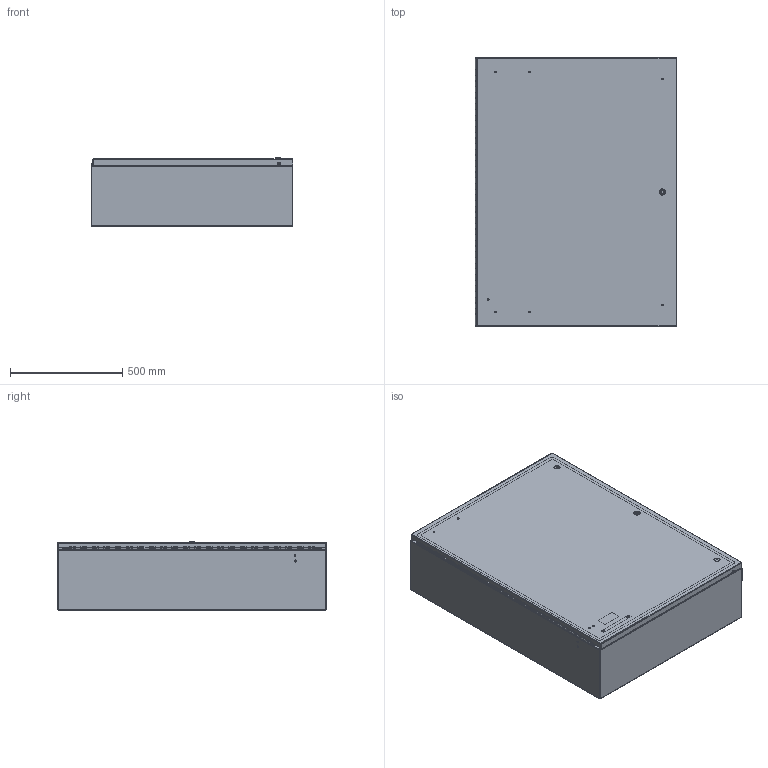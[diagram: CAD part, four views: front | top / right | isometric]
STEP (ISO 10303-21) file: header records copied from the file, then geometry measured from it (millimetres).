
FILE_DESCRIPTION (( 'STEP AP203' ), '1' );
FILE_NAME ('ecl1209030ch.STEP', '2013-09-10T15:50:36', ( 'User' ), ( 'Pentair Inc' ), 'SwSTEP 2.0', 'SolidWorks 2010', '' );
FILE_SCHEMA (( 'CONFIG_CONTROL_DESIGN' ));
Length unit declared in the file: inch
Products named in the file (40): ecl1209030ch; 89051901; 89052982; 87559712; 87554969; 89051851; 87554464; 89051852; 87554468; 87554978_PEM HFHS-M6-15 ---N; 87559861; 89051733; 89051710; 87559679; 87744876_87744876; 87554979_87554979; 99411940_99411940; 89051697; 64138001; 91120001_91120001; 87780048; 87554967_OPEN; 87960059_Default 14 ga; 87956873; 87956874; 31122001_31122001; 99407583; 87956867; 99405181; 87956872; 87956875; 99414303_99414303; 99411839_99411839; 27131001; 87554494; 89051755; 87793415_87793415; 87555333_87555333; 87933943_87933843; 87559870
Assembly tree (59 placements, depth 5):
  ecl1209030ch
    87559870
    89051901
      87554969  x8
      89051852
        87554468
        87554978_PEM HFHS-M6-15 ---N  x2
      87559861
      89052982
        99411940_99411940
        87559712
      89051851
        87554464
        87554978_PEM HFHS-M6-15 ---N  x2
    87555333_87555333
      87933943_87933843
    87793415_87793415
    89051733
      27131001  x2
      99411839_99411839  x2
      91120001_91120001  x2
      64138001  x2
      89051755  x2
      89051697
      87554494
      87780048
      89051710
        87554979_87554979  x4
        87744876_87744876  x2
        87559679
        99411940_99411940
      87554967_OPEN
        87960059_Default 14 ga
          87956873
          87956874
          31122001_31122001
        99407583
          87956867
          87956872
          87956875
          99405181
        99414303_99414303
Bounding box: 900.52 x 1204.06 x 304.23 mm (x, y, z)
Volume: 8430579.8 mm3; surface area: 7580110 mm2
Topology: 55 solids, 67 shells, 2967 faces, 7731 edges, 4968 vertices
Faces by surface type: plane 1470, cylinder 897, cone 327, torus 112, bspline 105, sphere 56
Entity records: 71981 total; most frequent: CARTESIAN_POINT 18600, DIRECTION 10190, ORIENTED_EDGE 10160, EDGE_CURVE 5084, AXIS2_PLACEMENT_3D 3674, VERTEX_POINT 3265, VECTOR 2842, LINE 2842
